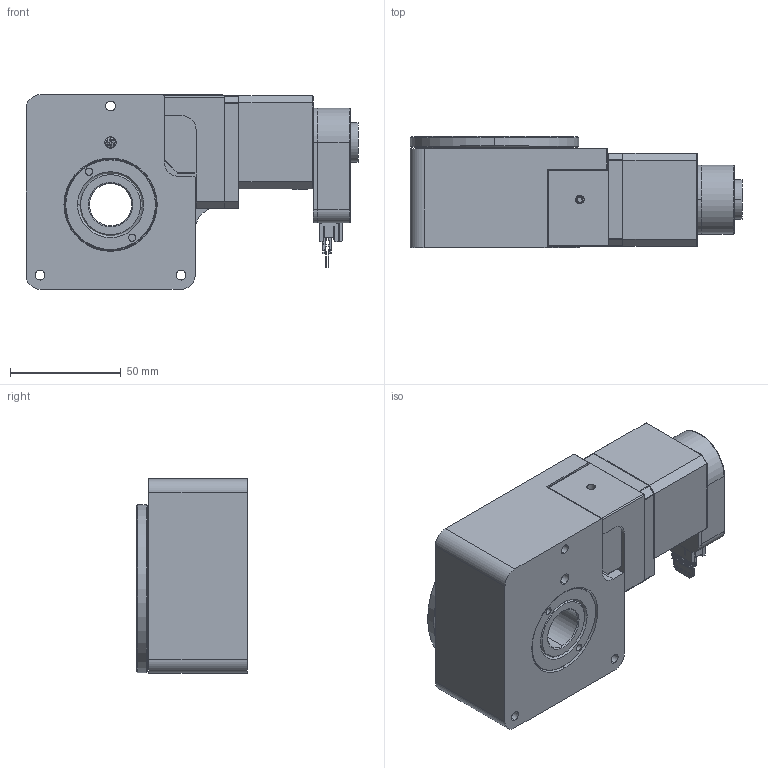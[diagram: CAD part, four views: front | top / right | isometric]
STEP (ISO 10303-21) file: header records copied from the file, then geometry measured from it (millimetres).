
FILE_DESCRIPTION (( 'STEP AP214' ), '1' );
FILE_NAME ('L3552.075-STB_v2_20180817.STEP', '2018-08-22T11:15:31', ( '' ), ( '' ), 'SwSTEP 2.0', 'SolidWorks 2017', '' );
FILE_SCHEMA (( 'AUTOMOTIVE_DESIGN' ));
Length unit declared in the file: millimetre
Products named in the file (1): L3552.075-STB_v2_20180817
Bounding box: 149.56 x 49.96 x 87.63 mm (x, y, z)
Volume: 390077 mm3; surface area: 137439.5 mm2
Topology: 61 solids, 61 shells, 4468 faces, 11602 edges, 7456 vertices
Faces by surface type: plane 2738, cylinder 975, cone 604, bspline 151
Entity records: 146238 total; most frequent: CARTESIAN_POINT 35890, ORIENTED_EDGE 23132, DIRECTION 22164, EDGE_CURVE 11566, VECTOR 8516, LINE 8516, VERTEX_POINT 7456, AXIS2_PLACEMENT_3D 6824
